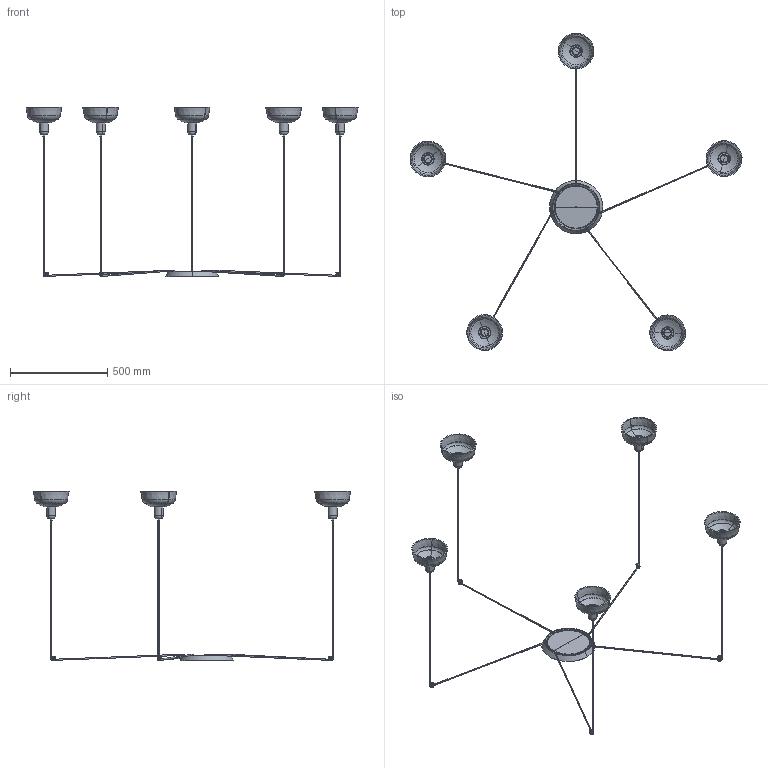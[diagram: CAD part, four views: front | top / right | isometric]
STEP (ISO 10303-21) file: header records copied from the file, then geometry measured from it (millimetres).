
FILE_DESCRIPTION(/* description */ (''),/* implementation_level */ '2;1');
FILE_NAME(/* name */ '20340-116-5L.step',/* time_stamp */ '2024-05-30T09:59:11+02:00',/* author */ ('RenataManzini'),/* organization */ (''),/* preprocessor_version */ 'ST-DEVELOPER v20',/* originating_system */ 'AutoCAD Mechanical',/* authorisation */ '');
FILE_SCHEMA (('AUTOMOTIVE_DESIGN { 1 0 10303 214 3 1 1 }'));
Length unit declared in the file: millimetre
Products named in the file (2): Product; TATAWIN_CAN5 - 68603-543419-_3D_
Assembly tree (1 placements, depth 2):
  Product
    TATAWIN_CAN5 - 68603-543419-_3D_
Bounding box: 1705.44 x 1631.44 x 871.11 mm (x, y, z)
Volume: 2138187.1 mm3; surface area: 1026807.8 mm2
Topology: 47 solids, 47 shells, 857 faces, 1948 edges, 1151 vertices
Faces by surface type: cylinder 317, plane 308, torus 118, cone 84, bspline 30
Entity records: 31959 total; most frequent: CARTESIAN_POINT 13302, ORIENTED_EDGE 3870, DIRECTION 3773, EDGE_CURVE 1935, AXIS2_PLACEMENT_3D 1512, VERTEX_POINT 1146, EDGE_LOOP 931, FACE_OUTER_BOUND 857
